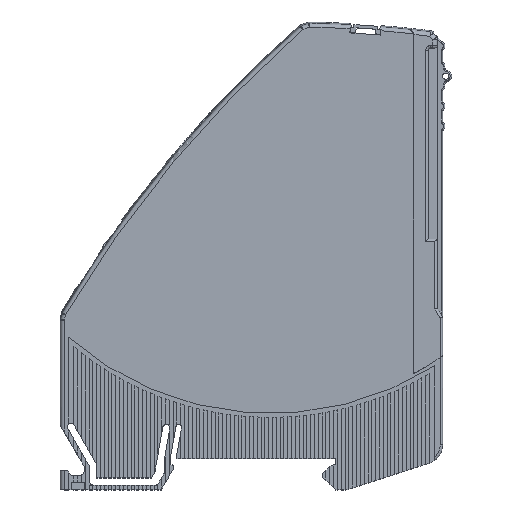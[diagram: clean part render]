
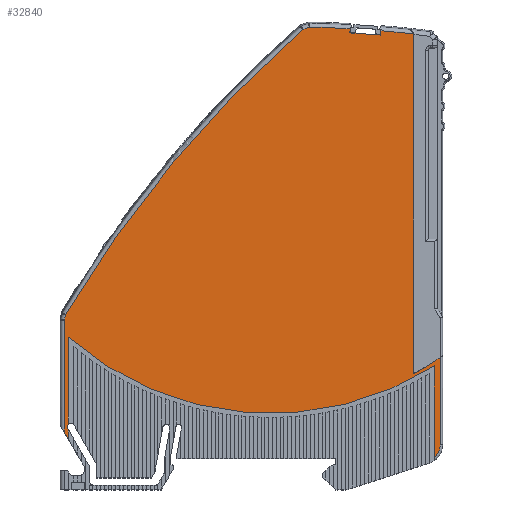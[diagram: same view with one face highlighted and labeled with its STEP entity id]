
A CAD part, top view. The second image highlights one B-rep face of the part: STEP entity #32840.
In plain terms, the highlighted planar face has unit normal (0, 0, 1).
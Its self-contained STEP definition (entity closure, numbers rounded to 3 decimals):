
#8354=CARTESIAN_POINT('',(38.3,0.268,6.15));
#8378=CARTESIAN_POINT('',(36.,2.906,6.15));
#8379=DIRECTION('',(0.,0.,-1.));
#8380=DIRECTION('',(1.,0.,0.));
#8381=AXIS2_PLACEMENT_3D('',#8378,#8379,#8380);
#8386=CARTESIAN_POINT('',(36.,2.906,6.15));
#8387=DIRECTION('',(0.,0.,-1.));
#8388=DIRECTION('',(0.81,-0.587,0.));
#8389=AXIS2_PLACEMENT_3D('',#8386,#8387,#8388);
#8394=DIRECTION('',(0.,1.,0.));
#8395=VECTOR('',#8394,19.2);
#8396=CARTESIAN_POINT('',(38.3,0.268,6.15));
#8397=LINE('',#8396,#8395);
#8401=CARTESIAN_POINT('',(4.,73.5,6.15));
#8402=DIRECTION('',(0.,0.,-1.));
#8403=DIRECTION('',(0.536,-0.844,0.));
#8404=AXIS2_PLACEMENT_3D('',#8401,#8402,#8403);
#8409=DIRECTION('',(0.,-1.,0.));
#8410=VECTOR('',#8409,18.192);
#8411=CARTESIAN_POINT('',(-38.3,25.472,6.15));
#8412=LINE('',#8411,#8410);
#8416=CARTESIAN_POINT('',(-37.748,6.7,6.15));
#8417=DIRECTION('',(0.,0.,1.));
#8418=DIRECTION('',(-0.69,0.724,0.));
#8419=AXIS2_PLACEMENT_3D('',#8416,#8417,#8418);
#8424=DIRECTION('',(0.5,-0.866,0.));
#8425=VECTOR('',#8424,0.282);
#8426=CARTESIAN_POINT('',(-38.441,6.3,6.15));
#8427=LINE('',#8426,#8425);
#8431=DIRECTION('',(0.,-1.,0.));
#8432=VECTOR('',#8431,2.);
#8433=CARTESIAN_POINT('',(-38.3,6.056,6.15));
#8434=LINE('',#8433,#8432);
#8438=DIRECTION('',(-0.5,0.866,0.));
#8439=VECTOR('',#8438,1.8);
#8440=CARTESIAN_POINT('',(-38.3,4.056,6.15));
#8441=LINE('',#8440,#8439);
#8445=DIRECTION('',(0.263,0.965,0.));
#8446=VECTOR('',#8445,1.151);
#8447=CARTESIAN_POINT('',(-39.2,29.046,6.15));
#8448=LINE('',#8447,#8446);
#8452=CARTESIAN_POINT('',(173.121,-95.689,6.15));
#8453=DIRECTION('',(0.,0.,-1.));
#8454=DIRECTION('',(-0.86,0.51,0.));
#8455=AXIS2_PLACEMENT_3D('',#8452,#8453,#8454);
#8460=DIRECTION('',(0.94,0.342,0.));
#8461=VECTOR('',#8460,1.497);
#8462=CARTESIAN_POINT('',(10.744,89.843,6.15));
#8463=LINE('',#8462,#8461);
#8467=CARTESIAN_POINT('',(7.,-158.5,6.15));
#8468=DIRECTION('',(0.,0.,-1.));
#8469=DIRECTION('',(0.021,1.,0.));
#8470=AXIS2_PLACEMENT_3D('',#8467,#8468,#8469);
#8475=DIRECTION('',(-0.07,-0.998,0.));
#8476=VECTOR('',#8475,0.881);
#8477=CARTESIAN_POINT('',(20.66,90.033,6.15));
#8478=LINE('',#8477,#8476);
#8482=DIRECTION('',(0.998,-0.07,0.));
#8483=VECTOR('',#8482,6.46);
#8484=CARTESIAN_POINT('',(20.598,89.154,6.15));
#8485=LINE('',#8484,#8483);
#8489=DIRECTION('',(0.07,0.998,0.));
#8490=VECTOR('',#8489,0.894);
#8491=CARTESIAN_POINT('',(27.042,88.704,6.15));
#8492=LINE('',#8491,#8490);
#8496=CARTESIAN_POINT('',(7.,-158.5,6.15));
#8497=DIRECTION('',(0.,0.,-1.));
#8498=DIRECTION('',(0.081,0.997,0.));
#8499=AXIS2_PLACEMENT_3D('',#8496,#8497,#8498);
#8504=CARTESIAN_POINT('',(4.,73.5,6.15));
#8505=DIRECTION('',(0.,0.,1.));
#8506=DIRECTION('',(0.472,-0.882,0.));
#8507=AXIS2_PLACEMENT_3D('',#8504,#8505,#8506);
#8655=DIRECTION('',(0.,-1.,0.));
#8656=VECTOR('',#8655,23.431);
#8657=CARTESIAN_POINT('',(-39.2,29.046,6.15));
#8658=LINE('',#8657,#8656);
#8662=CARTESIAN_POINT('',(-39.2,5.614,6.15));
#12912=DIRECTION('',(0.,1.,0.));
#12913=VECTOR('',#12912,18.306);
#12914=CARTESIAN_POINT('',(39.5,2.906,6.15));
#12915=LINE('',#12914,#12913);
#13017=DIRECTION('',(0.,1.,0.));
#13018=VECTOR('',#13017,71.177);
#13019=CARTESIAN_POINT('',(33.827,17.781,6.15));
#13020=LINE('',#13019,#13018);
#23370=VERTEX_POINT('',#8662);
#23371=CARTESIAN_POINT('',(-38.3,4.056,6.15));
#23372=VERTEX_POINT('',#23371);
#23506=CARTESIAN_POINT('',(-38.441,6.3,6.15));
#23507=VERTEX_POINT('',#23506);
#23508=CARTESIAN_POINT('',(-38.3,7.279,6.15));
#23509=VERTEX_POINT('',#23508);
#23548=CARTESIAN_POINT('',(-38.3,6.056,6.15));
#23549=VERTEX_POINT('',#23548);
#25103=VERTEX_POINT('',#8354);
#25104=CARTESIAN_POINT('',(38.833,0.852,6.15));
#25105=VERTEX_POINT('',#25104);
#25106=CARTESIAN_POINT('',(39.5,2.906,6.15));
#25107=VERTEX_POINT('',#25106);
#25108=CARTESIAN_POINT('',(38.3,19.468,6.15));
#25109=VERTEX_POINT('',#25108);
#25110=CARTESIAN_POINT('',(-38.3,25.472,6.15));
#25111=VERTEX_POINT('',#25110);
#25112=CARTESIAN_POINT('',(-39.2,29.046,
6.15));
#25113=VERTEX_POINT('',#25112);
#25114=CARTESIAN_POINT('',(-38.897,30.156,
6.15));
#25115=VERTEX_POINT('',#25114);
#25116=CARTESIAN_POINT('',(10.744,89.843,6.15));
#25117=VERTEX_POINT('',#25116);
#25118=CARTESIAN_POINT('',(12.15,90.355,6.15));
#25119=VERTEX_POINT('',#25118);
#25120=CARTESIAN_POINT('',(20.66,90.033,6.15));
#25121=VERTEX_POINT('',#25120);
#25122=CARTESIAN_POINT('',(20.598,89.154,6.15));
#25123=VERTEX_POINT('',#25122);
#25124=CARTESIAN_POINT('',(27.042,88.704,6.15));
#25125=VERTEX_POINT('',#25124);
#25126=CARTESIAN_POINT('',(27.105,89.595,6.15));
#25127=VERTEX_POINT('',#25126);
#25128=CARTESIAN_POINT('',(33.827,88.958,6.15));
#25129=VERTEX_POINT('',#25128);
#25130=CARTESIAN_POINT('',(33.827,17.781,6.15));
#25131=VERTEX_POINT('',#25130);
#25132=CARTESIAN_POINT('',(39.5,21.212,6.15));
#25133=VERTEX_POINT('',#25132);
#32798=CARTESIAN_POINT('',(0.,0.,6.15));
#32799=DIRECTION('',(0.,0.,1.));
#32800=DIRECTION('',(1.,0.,0.));
#32801=AXIS2_PLACEMENT_3D('',#32798,#32799,#32800);
#32802=PLANE('',#32801);
#32803=ORIENTED_EDGE('',*,*,#32760,.T.);
#32804=ORIENTED_EDGE('',*,*,#32758,.T.);
#32805=ORIENTED_EDGE('',*,*,#32779,.T.);
#32806=ORIENTED_EDGE('',*,*,#32789,.T.);
#32808=ORIENTED_EDGE('',*,*,#32807,.T.);
#32809=ORIENTED_EDGE('',*,*,#28374,.T.);
#32810=ORIENTED_EDGE('',*,*,#28432,.T.);
#32812=ORIENTED_EDGE('',*,*,#32811,.T.);
#32813=ORIENTED_EDGE('',*,*,#27447,.T.);
#32815=ORIENTED_EDGE('',*,*,#32814,.F.);
#32817=ORIENTED_EDGE('',*,*,#32816,.T.);
#32819=ORIENTED_EDGE('',*,*,#32818,.T.);
#32821=ORIENTED_EDGE('',*,*,#32820,.T.);
#32823=ORIENTED_EDGE('',*,*,#32822,.T.);
#32825=ORIENTED_EDGE('',*,*,#32824,.T.);
#32827=ORIENTED_EDGE('',*,*,#32826,.T.);
#32829=ORIENTED_EDGE('',*,*,#32828,.T.);
#32831=ORIENTED_EDGE('',*,*,#32830,.T.);
#32833=ORIENTED_EDGE('',*,*,#32832,.F.);
#32835=ORIENTED_EDGE('',*,*,#32834,.T.);
#32837=ORIENTED_EDGE('',*,*,#32836,.F.);
#32838=EDGE_LOOP('',(#32803,#32804,#32805,#32806,#32808,#32809,#32810,#32812,
#32813,#32815,#32817,#32819,#32821,#32823,#32825,#32827,#32829,#32831,#32833,
#32835,#32837));
#32839=FACE_OUTER_BOUND('',#32838,.F.);
#8382=CIRCLE('',#8381,3.5);
#8390=CIRCLE('',#8389,3.5);
#8405=CIRCLE('',#8404,64.);
#8420=CIRCLE('',#8419,0.8);
#8456=CIRCLE('',#8455,246.553);
#8471=CIRCLE('',#8470,248.908);
#8500=CIRCLE('',#8499,248.908);
#8508=CIRCLE('',#8507,63.2);
#27447=EDGE_CURVE('',#23372,#23370,#8441,.T.);
#28374=EDGE_CURVE('',#23509,#23507,#8420,.T.);
#28432=EDGE_CURVE('',#23507,#23549,#8427,.T.);
#32758=EDGE_CURVE('',#25105,#25103,#8390,.T.);
#32760=EDGE_CURVE('',#25107,#25105,#8382,.T.);
#32779=EDGE_CURVE('',#25103,#25109,#8397,.T.);
#32789=EDGE_CURVE('',#25109,#25111,#8405,.T.);
#32807=EDGE_CURVE('',#25111,#23509,#8412,.T.);
#32811=EDGE_CURVE('',#23549,#23372,#8434,.T.);
#32814=EDGE_CURVE('',#25113,#23370,#8658,.T.);
#32816=EDGE_CURVE('',#25113,#25115,#8448,.T.);
#32818=EDGE_CURVE('',#25115,#25117,#8456,.T.);
#32820=EDGE_CURVE('',#25117,#25119,#8463,.T.);
#32822=EDGE_CURVE('',#25119,#25121,#8471,.T.);
#32824=EDGE_CURVE('',#25121,#25123,#8478,.T.);
#32826=EDGE_CURVE('',#25123,#25125,#8485,.T.);
#32828=EDGE_CURVE('',#25125,#25127,#8492,.T.);
#32830=EDGE_CURVE('',#25127,#25129,#8500,.T.);
#32832=EDGE_CURVE('',#25131,#25129,#13020,.T.);
#32834=EDGE_CURVE('',#25131,#25133,#8508,.T.);
#32836=EDGE_CURVE('',#25107,#25133,#12915,.T.);
#32840=ADVANCED_FACE('',(#32839),#32802,.T.);
